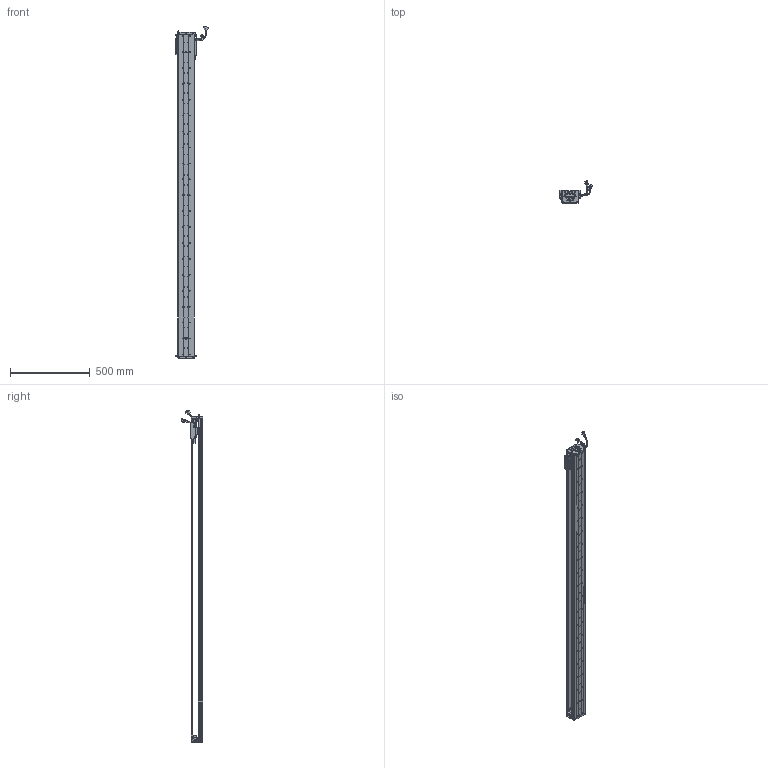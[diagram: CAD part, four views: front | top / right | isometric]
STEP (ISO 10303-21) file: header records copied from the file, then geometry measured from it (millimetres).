
FILE_DESCRIPTION (( 'STEP AP203' ), '1' );
FILE_NAME ('Z1-RY100D-1-L500-B-K.SLDASM_1850.step', '2021-05-17T01:42:43', ( '盈信电脑' ), ( '东莞市道滘镇水果街19号' ), 'SwSTEP 2.0', 'SolidWorks 2016', '' );
FILE_SCHEMA (( 'CONFIG_CONTROL_DESIGN' ));
Length unit declared in the file: millimetre
Products named in the file (36): 140蚥薯蝶輸; COVER; SHIELDPLATE; Z-RY100D詩湍狟揤裔; Z1-RY100D-1-L500-B-K.SLDASM_1850; SCREW-M1.7; HARNESS-Part-2; Z1-RY100D-500-倰第菁釱_1850; SCREW-M1.6-3; 榋妏寠巭燃_暯_M2_2; PSLH080_PSLF2; Z1-RY100铝滑块（21款）; HARNESS; HOLDER0; Z-100詩湍傷裔啣; SCALE-Part-2; LABEL; HARNESS-Part-1; Z-RY100D覜茼んえ; SCREW-M1.6; SEAL-Part-1; PBU_SHEET; 覜茼ん672; SCALE-Part-1; SCALE; 140雄赽晤鎢ん堤盄; 100-Z-臏賑輸盄裔(21遴); Z-RY100D詩湍奻揤裔; SCREW-M1.6-1; LABEL-Part-1; 080黍杅芛假蚾釱21遴; SCREW-M1.6-2; COVER-Part-1; SEAL; Z1-RY100-L500詩湍90mm遵_1850; SCREW-M1.7-1
Assembly tree (44 placements, depth 4):
  Z1-RY100D-1-L500-B-K.SLDASM_1850
    Z1-RY100D-500-倰第菁釱_1850
    Z1-RY100铝滑块（21款）
    PSLH080_PSLF2
      SCALE
        SCALE-Part-1
        SCALE-Part-2
      HARNESS
        HARNESS-Part-1
        HARNESS-Part-2
      LABEL
        LABEL-Part-1
      COVER
        COVER-Part-1
      SEAL
        SEAL-Part-1
      榋妏寠巭燃_暯_M2_2
      SHIELDPLATE
      SCREW-M1.7
      SCREW-M1.7-1
      PBU_SHEET
      SCREW-M1.6
      SCREW-M1.6-1
      SCREW-M1.6-2
      SCREW-M1.6-3
      HOLDER0
    080黍杅芛假蚾釱21遴
    Z-100詩湍傷裔啣  x2
    140蚥薯蝶輸  x2
    覜茼ん672  x4
    Z-RY100D覜茼んえ  x3
    100-Z-臏賑輸盄裔(21遴)
    140雄赽晤鎢ん堤盄
    Z1-RY100-L500詩湍90mm遵_1850
    Z-RY100D詩湍狟揤裔  x2
    Z-RY100D詩湍奻揤裔  x2
Bounding box: 205.84 x 136.11 x 2085.43 mm (x, y, z)
Volume: 3750358.4 mm3; surface area: 1498374.8 mm2
Topology: 39 solids, 39 shells, 2862 faces, 7729 edges, 4936 vertices
Faces by surface type: cylinder 1314, plane 1216, cone 210, torus 69, bspline 53
Entity records: 78645 total; most frequent: CARTESIAN_POINT 16585, DIRECTION 12539, ORIENTED_EDGE 11890, EDGE_CURVE 5945, AXIS2_PLACEMENT_3D 4662, VERTEX_POINT 3844, LINE 3215, VECTOR 3215
